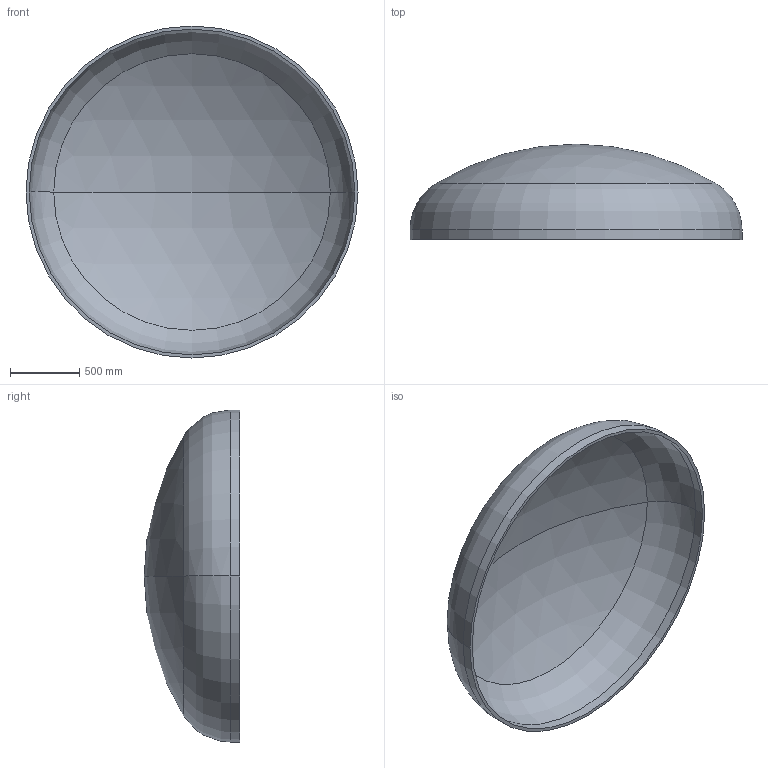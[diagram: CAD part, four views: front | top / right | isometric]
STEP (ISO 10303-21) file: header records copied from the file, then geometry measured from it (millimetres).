
FILE_DESCRIPTION (( 'STEP AP203' ), '1' );
FILE_NAME ('DIN 28013 Korbbogenform_-_Boden DIN 28013 - 2400 x 70 - I - s=23.step', '2016-07-01T15:11:31', ( '' ), ( '' ), 'SwSTEP 2.0', 'SolidWorks 2013', '' );
FILE_SCHEMA (( 'CONFIG_CONTROL_DESIGN' ));
Length unit declared in the file: millimetre
Products named in the file (1): DIN 28013 Korbbogenform_-_Boden DIN 28013 - 2400 x 70 - I - s=23
Bounding box: 2400 x 689.65 x 2400 mm (x, y, z)
Volume: 154345357.5 mm3; surface area: 13594192.4 mm2
Topology: 1 solids, 1 shells, 13 faces, 24 edges, 14 vertices
Faces by surface type: torus 4, cylinder 4, sphere 4, plane 1
Entity records: 407 total; most frequent: DIRECTION 72, CARTESIAN_POINT 52, ORIENTED_EDGE 48, AXIS2_PLACEMENT_3D 34, EDGE_CURVE 24, CIRCLE 20, EDGE_LOOP 14, VERTEX_POINT 14
